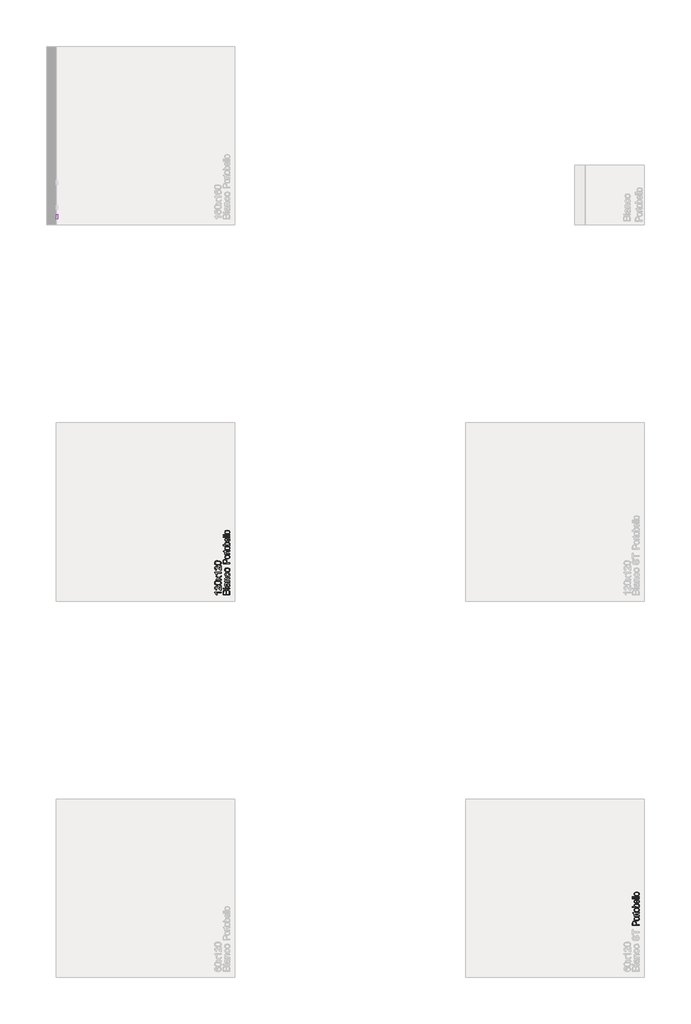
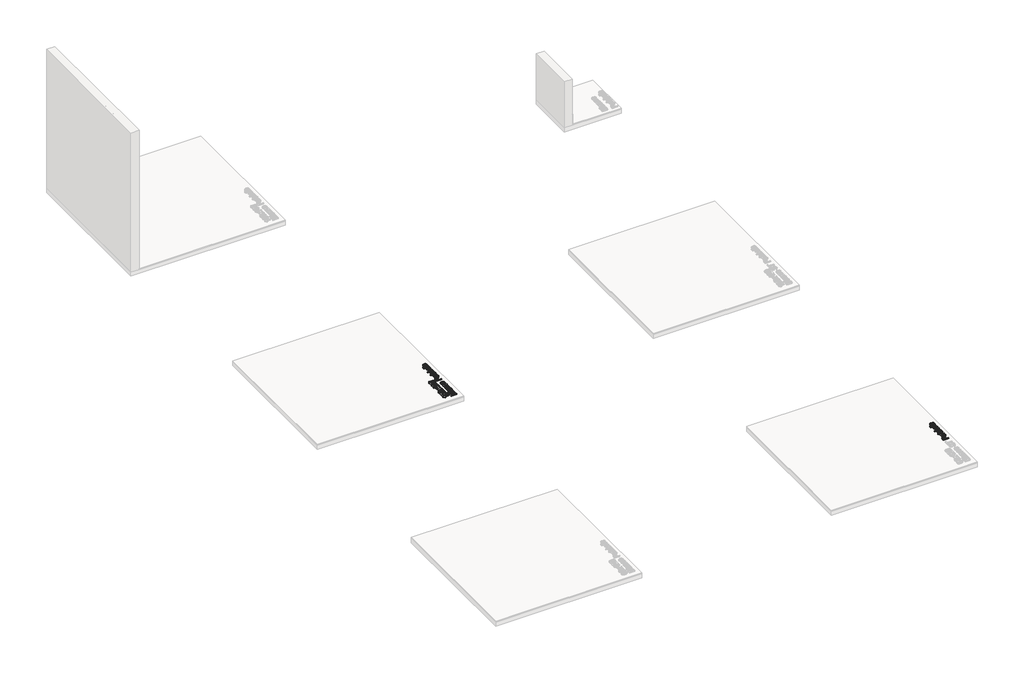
# One storey, part 10 of 14: 5 proxies.
"""IFC4 building model written with IfcOpenShell, lengths in millimetres."""

from ifc_helpers import new_model, si_unit, frame, origin, place, context, project, spatial, polyline, outline, extrude, element, save

model = new_model("IFC4")

# Units and contexts
model_context = context("Model", 3, world=origin())
ifc_project = project(units=[si_unit("LENGTHUNIT", "METRE", prefix="MILLI")], contexts=[model_context])

# Site, building, storey
site = spatial("IfcSite", under=ifc_project)
building = spatial("IfcBuilding", under=site)
storey = spatial("IfcBuildingStorey", under=building, Name="PORTOBELLO - SHOWROOM", Elevation=0.0)

# Proxies
placement = place(None, origin())
element("IfcBuildingElementProxy", 1, Name="10mm Arial", ObjectType="10mm Arial", at=placement, inside=storey, context=model_context, shape_type="SweptSolid", body=[
    extrude(outline(polyline([(-10552.2181326, 16929.8621307), (-10652.6744428, 16929.8621307), (-10652.6744428, 16968.1954346), (-10649.7191241, 16986.9696791), (-10640.6324388, 16998.0551899), (-10627.7810945, 17002.0651036), (-10616.0456588, 16998.692852), (-10607.1551773, 16988.5025207), (-10597.7864491, 17000.8756185), (-10582.1637271, 17005.2043633), (-10568.6624578, 17002.2490446), (-10559.048475, 16994.9281929), (-10553.947178, 16984.0020977), (-10552.2181326, 16967.901129), (-10552.2181326, 16929.8621307)]), holes=[polyline([(-10611.8640668, 16942.4191695), (-10611.8640668, 16965.3504805), (-10612.9431873, 16978.7413851), (-10617.5907632, 16986.7980008), (-10625.7700062, 16989.5080648), (-10633.961512, 16986.9819418), (-10638.8052916, 16979.7469292), (-10640.117404, 16963.6091724), (-10640.117404, 16942.4191695), (-10611.8640668, 16942.4191695)]), polyline([(-10564.7751714, 16942.4191695), (-10564.7751714, 16968.1709091), (-10565.2656807, 16977.4905863), (-10568.0002702, 16985.3755238), (-10573.5798138, 16990.5994481), (-10582.0410997, 16992.6473245), (-10591.8022353, 16990.2438288), (-10597.6270336, 16982.4569933), (-10599.307028, 16966.9446358), (-10599.307028, 16942.4191695), (-10564.7751714, 16942.4191695)])]), frame((0.0, 0.0, 17.0), z_axis=(0.0, 0.0, 1.0), x_axis=(1.0, 0.0, 0.0)), (0.0, 0.0, 1.0), 20.0),
    extrude(outline(polyline([(-10640.117404, 17020.9006618), (-10652.6744428, 17020.9006618), (-10652.6744428, 17033.4577005), (-10640.117404, 17033.4577005), (-10640.117404, 17020.9006618)])), frame((0.0, 0.0, 17.0), z_axis=(0.0, 0.0, 1.0), x_axis=(1.0, 0.0, 0.0)), (0.0, 0.0, 1.0), 20.0),
    extrude(outline(polyline([(-10552.2181326, 17020.9006618), (-10625.9907354, 17020.9006618), (-10625.9907354, 17033.4577005), (-10552.2181326, 17033.4577005), (-10552.2181326, 17020.9006618)])), frame((0.0, 0.0, 17.0), z_axis=(0.0, 0.0, 1.0), x_axis=(1.0, 0.0, 0.0)), (0.0, 0.0, 1.0), 20.0),
    extrude(outline(polyline([(-10561.6359117, 17099.3821541), (-10553.1255749, 17087.20526), (-10550.6485028, 17073.7530417), (-10552.1384249, 17063.2592078), (-10556.6081911, 17055.5183575), (-10563.3956139, 17050.7450886), (-10571.8385057, 17049.153999), (-10581.7713196, 17051.5574947), (-10588.9818067, 17057.8728023), (-10593.102085, 17066.665182), (-10594.990546, 17077.5299636), (-10599.307028, 17099.3085777), (-10602.1029312, 17099.3821541), (-10611.3735575, 17095.9240633), (-10615.0033265, 17082.0426494), (-10612.5875681, 17069.3384578), (-10604.0159176, 17063.2806676), (-10605.5855474, 17050.7236288), (-10617.8482806, 17056.1560196), (-10625.0342422, 17067.0943776), (-10627.5603653, 17083.6613301), (-10625.3285478, 17098.879382), (-10619.7244788, 17107.475558), (-10611.2018792, 17111.3260562), (-10600.2144703, 17111.9391928), (-10584.5917482, 17111.9391928), (-10562.7763459, 17112.576855), (-10552.2181326, 17115.0784525), (-10552.2181326, 17102.5214138), (-10561.6359117, 17099.3821541)]), holes=[polyline([(-10586.7499893, 17099.3821541), (-10582.899491, 17079.1241189), (-10580.8638773, 17068.3206509), (-10577.5529394, 17063.4278204), (-10572.7214225, 17061.7110378), (-10565.9278683, 17065.4511714), (-10563.2055416, 17076.4263176), (-10566.2099112, 17089.1305091), (-10573.481712, 17097.3220149), (-10583.1937966, 17099.3085777), (-10586.7499893, 17099.3821541)])]), frame((0.0, 0.0, 17.0), z_axis=(0.0, 0.0, 1.0), x_axis=(1.0, 0.0, 0.0)), (0.0, 0.0, 1.0), 20.0),
    extrude(outline(polyline([(-10552.2181326, 17129.2051211), (-10625.9907354, 17129.2051211), (-10625.9907354, 17141.7621599), (-10615.6900395, 17141.7621599), (-10624.5927838, 17151.36388), (-10627.5603653, 17164.4727418), (-10625.1691323, 17176.3308047), (-10618.8906129, 17184.4242086), (-10609.6567748, 17188.1888677), (-10597.516669, 17188.8510553), (-10552.2181326, 17188.8510553), (-10552.2181326, 17176.2940165), (-10595.8244118, 17176.2940165), (-10606.9344481, 17174.847014), (-10612.8082973, 17169.7334543), (-10615.0033265, 17161.1127529), (-10610.0737078, 17147.4888563), (-10602.9306657, 17143.193834), (-10591.3607769, 17141.7621599), (-10552.2181326, 17141.7621599), (-10552.2181326, 17129.2051211)])), frame((0.0, 0.0, 17.0), z_axis=(0.0, 0.0, 1.0), x_axis=(1.0, 0.0, 0.0)), (0.0, 0.0, 1.0), 20.0),
    extrude(outline(polyline([(-10578.90184, 17253.205879), (-10577.3322102, 17265.7629178), (-10566.1639259, 17262.2619074), (-10557.7240998, 17255.6829511), (-10552.4174021, 17246.6453167), (-10550.6485028, 17235.7682724), (-10553.1163779, 17222.4110903), (-10560.520003, 17211.9663073), (-10572.5344158, 17205.2248698), (-10588.8346539, 17202.9777239), (-10609.693563, 17206.8159594), (-10623.0967304, 17218.5146068), (-10627.5603653, 17235.5965942), (-10626.0275236, 17246.206924), (-10621.4289987, 17254.6896697), (-10614.0100451, 17260.775051), (-10604.0159176, 17264.1932879), (-10602.4462877, 17251.6362491), (-10611.8518041, 17245.8114509), (-10615.0033265, 17235.694696), (-10613.4520907, 17227.5798323), (-10608.7983835, 17221.1388317), (-10600.7908187, 17216.9357799), (-10589.1780104, 17215.5347627), (-10577.4088523, 17216.9051231), (-10569.3736964, 17221.0162044), (-10564.7475803, 17227.340709), (-10563.2055416, 17235.3513395), (-10567.0560398, 17247.184877), (-10578.90184, 17253.205879)])), frame((0.0, 0.0, 17.0), z_axis=(0.0, 0.0, 1.0), x_axis=(1.0, 0.0, 0.0)), (0.0, 0.0, 1.0), 20.0),
    extrude(outline(polyline([(-10589.104434, 17273.611067), (-10606.8915285, 17276.3272624), (-10619.393385, 17284.4758486), (-10625.5186202, 17294.5435525), (-10627.5603653, 17306.5978192), (-10625.0740961, 17319.7894544), (-10617.6152887, 17330.3262079), (-10605.7725541, 17337.2331924), (-10590.1345036, 17339.5355205), (-10567.7918038, 17335.4642931), (-10555.1489259, 17323.6062301), (-10550.6485028, 17306.5978192), (-10553.1255749, 17293.2467685), (-10560.5567912, 17282.7222777), (-10572.6478461, 17275.8888697), (-10589.104434, 17273.611067)]), holes=[polyline([(-10589.1289595, 17286.1681058), (-10577.7644715, 17287.6212396), (-10569.668002, 17291.9806413), (-10564.8211567, 17298.5412035), (-10563.2055416, 17306.5978192), (-10564.8303537, 17314.6176467), (-10569.7047902, 17321.1659462), (-10577.9085586, 17325.5253479), (-10589.521367, 17326.9784818), (-10600.5547611, 17325.5161508), (-10608.5408661, 17321.129158), (-10613.3877114, 17314.5716615), (-10615.0033265, 17306.5978192), (-10613.3938428, 17298.5412035), (-10608.5653916, 17291.9806413), (-10600.4873161, 17287.6212396), (-10589.1289595, 17286.1681058)])]), frame((0.0, 0.0, 17.0), z_axis=(0.0, 0.0, 1.0), x_axis=(1.0, 0.0, 0.0)), (0.0, 0.0, 1.0), 20.0),
])
element("IfcBuildingElementProxy", 2, Name="10mm Arial", ObjectType="10mm Arial", at=placement, inside=storey, context=model_context, shape_type="SweptSolid", body=[
    extrude(outline(polyline([(-10682.2181326, 16972.2421365), (-10682.2181326, 16959.6850978), (-10760.5034212, 16959.6850978), (-10752.0298726, 16947.7902466), (-10745.6900395, 16934.5710202), (-10757.5603653, 16934.5710202), (-10769.3080636, 16952.9773827), (-10782.6744428, 16964.1487326), (-10782.6744428, 16972.2421365), (-10682.2181326, 16972.2421365)])), frame((0.0, 0.0, 17.0), z_axis=(0.0, 0.0, 1.0), x_axis=(1.0, 0.0, 0.0)), (0.0, 0.0, 1.0), 20.0),
    extrude(outline(polyline([(-10694.7751714, 17066.4199273), (-10682.2181326, 17066.4199273), (-10682.2181326, 17000.4954738), (-10690.8756223, 17001.8443744), (-10704.2052132, 17009.4840572), (-10718.7610775, 17025.2171438), (-10739.6813003, 17046.8853934), (-10753.9060708, 17052.2932587), (-10765.4207772, 17047.179699), (-10770.117404, 17033.8255825), (-10765.5311418, 17019.9073804), (-10752.8514757, 17014.6221424), (-10754.4211056, 17002.0651036), (-10766.5673428, 17005.1093271), (-10775.4394302, 17011.6913492), (-10780.8656897, 17021.4678132), (-10782.6744428, 17034.0953627), (-10780.6633546, 17046.8148826), (-10774.6300898, 17056.5729526), (-10765.616981, 17062.7809612), (-10754.6663602, 17064.8502975), (-10742.7592463, 17062.61848), (-10730.4474622, 17055.1995265), (-10713.2428476, 17037.2100969), (-10701.1640554, 17022.7645972), (-10694.7751714, 17017.0992145), (-10694.7751714, 17066.4199273)])), frame((0.0, 0.0, 17.0), z_axis=(0.0, 0.0, 1.0), x_axis=(1.0, 0.0, 0.0)), (0.0, 0.0, 1.0), 20.0),
    extrude(outline(polyline([(-10731.6369473, 17078.9769661), (-10760.5402094, 17082.6680488), (-10777.2052638, 17093.6309322), (-10782.6744428, 17111.9391928), (-10779.4370812, 17126.6054217), (-10770.1051413, 17136.7344393), (-10755.2427087, 17142.6205512), (-10731.6369473, 17144.9014196), (-10702.8563126, 17141.2471251), (-10686.15447, 17130.3210299), (-10682.0249946, 17122.0896702), (-10680.6485028, 17111.9391928), (-10683.0397358, 17098.8916447), (-10690.2134347, 17088.9833563), (-10707.2034515, 17081.4785636), (-10731.6369473, 17078.9769661)]), holes=[polyline([(-10731.6614728, 17091.5340048), (-10711.9092753, 17093.0055328), (-10700.4773423, 17097.4201168), (-10695.0234918, 17103.9929417), (-10693.2055416, 17111.9391928), (-10695.0296231, 17119.8854439), (-10700.5018678, 17126.4582689), (-10711.9399322, 17130.8728529), (-10731.6614728, 17132.3443808), (-10750.9691462, 17130.9219038), (-10762.489984, 17126.6544726), (-10768.210549, 17120.0939104), (-10770.117404, 17111.79204), (-10768.4374096, 17103.9316281), (-10763.3974263, 17097.6163205), (-10751.1592185, 17093.0545838), (-10731.6614728, 17091.5340048)])]), frame((0.0, 0.0, 17.0), z_axis=(0.0, 0.0, 1.0), x_axis=(1.0, 0.0, 0.0)), (0.0, 0.0, 1.0), 20.0),
    extrude(outline(polyline([(-10682.2181326, 17151.179939), (-10719.3251632, 17178.0107992), (-10755.9907354, 17152.7495688), (-10755.9907354, 17167.8082052), (-10738.3078742, 17179.9973619), (-10729.9937411, 17185.7117956), (-10736.8118207, 17190.6659398), (-10755.9907354, 17204.5473538), (-10755.9907354, 17219.655041), (-10719.3006378, 17193.1184864), (-10682.2181326, 17218.6740224), (-10682.2181326, 17203.5908606), (-10704.536307, 17188.1888677), (-10708.6320599, 17185.3929645), (-10682.2181326, 17166.2876263), (-10682.2181326, 17151.179939)])), frame((0.0, 0.0, 17.0), z_axis=(0.0, 0.0, 1.0), x_axis=(1.0, 0.0, 0.0)), (0.0, 0.0, 1.0), 20.0),
    extrude(outline(polyline([(-10682.2181326, 17273.611067), (-10682.2181326, 17261.0540282), (-10760.5034212, 17261.0540282), (-10752.0298726, 17249.159177), (-10745.6900395, 17235.9399507), (-10757.5603653, 17235.9399507), (-10769.3080636, 17254.3463132), (-10782.6744428, 17265.5176631), (-10782.6744428, 17273.611067), (-10682.2181326, 17273.611067)])), frame((0.0, 0.0, 17.0), z_axis=(0.0, 0.0, 1.0), x_axis=(1.0, 0.0, 0.0)), (0.0, 0.0, 1.0), 20.0),
    extrude(outline(polyline([(-10694.7751714, 17367.7888578), (-10682.2181326, 17367.7888578), (-10682.2181326, 17301.8644042), (-10690.8756223, 17303.2133049), (-10704.2052132, 17310.8529876), (-10718.7610775, 17326.5860743), (-10739.6813003, 17348.2543238), (-10753.9060708, 17353.6621891), (-10765.4207772, 17348.5486294), (-10770.117404, 17335.194513), (-10765.5311418, 17321.2763108), (-10752.8514757, 17315.9910728), (-10754.4211056, 17303.4340341), (-10766.5673428, 17306.4782576), (-10775.4394302, 17313.0602796), (-10780.8656897, 17322.8367436), (-10782.6744428, 17335.4642931), (-10780.6633546, 17348.1838131), (-10774.6300898, 17357.941883), (-10765.616981, 17364.1498917), (-10754.6663602, 17366.2192279), (-10742.7592463, 17363.9874105), (-10730.4474622, 17356.5684569), (-10713.2428476, 17338.5790273), (-10701.1640554, 17324.1335277), (-10694.7751714, 17318.4681449), (-10694.7751714, 17367.7888578)])), frame((0.0, 0.0, 17.0), z_axis=(0.0, 0.0, 1.0), x_axis=(1.0, 0.0, 0.0)), (0.0, 0.0, 1.0), 20.0),
    extrude(outline(polyline([(-10731.6369473, 17380.3458965), (-10760.5402094, 17384.0369792), (-10777.2052638, 17394.9998627), (-10782.6744428, 17413.3081233), (-10779.4370812, 17427.9743522), (-10770.1051413, 17438.1033698), (-10755.2427087, 17443.9894817), (-10731.6369473, 17446.2703501), (-10702.8563126, 17442.6160556), (-10686.15447, 17431.6899603), (-10682.0249946, 17423.4586007), (-10680.6485028, 17413.3081233), (-10683.0397358, 17400.2605752), (-10690.2134347, 17390.3522868), (-10707.2034515, 17382.8474941), (-10731.6369473, 17380.3458965)]), holes=[polyline([(-10731.6614728, 17392.9029353), (-10711.9092753, 17394.3744633), (-10700.4773423, 17398.7890472), (-10695.0234918, 17405.3618722), (-10693.2055416, 17413.3081233), (-10695.0296231, 17421.2543744), (-10700.5018678, 17427.8271994), (-10711.9399322, 17432.2417833), (-10731.6614728, 17433.7133113), (-10750.9691462, 17432.2908342), (-10762.489984, 17428.0234031), (-10768.210549, 17421.4628408), (-10770.117404, 17413.1609705), (-10768.4374096, 17405.3005585), (-10763.3974263, 17398.9852509), (-10751.1592185, 17394.4235142), (-10731.6614728, 17392.9029353)])]), frame((0.0, 0.0, 17.0), z_axis=(0.0, 0.0, 1.0), x_axis=(1.0, 0.0, 0.0)), (0.0, 0.0, 1.0), 20.0),
])
element("IfcBuildingElementProxy", 3, Name="10mm Arial", ObjectType="10mm Arial", at=placement, inside=storey, context=model_context, shape_type="SweptSolid", body=[
    extrude(outline(polyline([(22620.5236639, 2516.1895903), (22620.5236639, 2616.6459005), (22657.7533218, 2616.6459005), (22672.7629072, 2615.6894073), (22684.9643267, 2610.9927805), (22692.8737896, 2601.2806958), (22695.8658965, 2587.5832229), (22693.8456112, 2575.743554), (22687.7847554, 2565.8781852), (22676.4509242, 2559.219521), (22658.6117131, 2556.9999663), (22633.0807027, 2556.9999663), (22633.0807027, 2516.1895903), (22620.5236639, 2516.1895903)]), holes=[polyline([(22633.0807027, 2569.5570051), (22659.3474771, 2569.5570051), (22677.8396788, 2574.1677928), (22681.941563, 2579.7166795), (22683.3088577, 2587.1417645), (22680.0837589, 2597.5405622), (22671.6102103, 2603.2304704), (22659.0531715, 2604.0888617), (22633.0807027, 2604.0888617), (22633.0807027, 2569.5570051)])]), frame((-13177.661959, 0.0, 0.0), z_axis=(1.0, 0.0, 0.0), x_axis=(0.0, 1.0, 0.0)), (0.0, 0.0, 1.0), 20.0),
    extrude(outline(polyline([(22711.562195, 2516.1895903), (22711.562195, 2589.9621931), (22722.5496039, 2589.9621931), (22722.5496039, 2579.0483606), (22730.3487022, 2589.1038018), (22738.1968514, 2591.531823), (22750.8029411, 2587.6567993), (22746.6090864, 2576.3996102), (22737.7799185, 2578.9747842), (22730.679796, 2576.4977121), (22726.1548475, 2569.6305815), (22724.1192337, 2554.9643526), (22724.1192337, 2516.1895903), (22711.562195, 2516.1895903)])), frame((-13177.661959, 0.0, 0.0), z_axis=(1.0, 0.0, 0.0), x_axis=(0.0, 1.0, 0.0)), (0.0, 0.0, 1.0), 20.0),
    extrude(outline(polyline([(22755.5118307, 2553.0758917), (22758.2280261, 2570.8629862), (22766.3766123, 2583.3648427), (22776.4443162, 2589.4900779), (22788.4985829, 2591.531823), (22801.6902181, 2589.0455538), (22812.2269716, 2581.5867464), (22819.1339561, 2569.7440118), (22821.4362842, 2554.1059613), (22817.3650568, 2531.7632615), (22805.5069938, 2519.1203836), (22788.4985829, 2514.6199605), (22775.1475322, 2517.0970326), (22764.6230414, 2524.5282489), (22757.7896334, 2536.6193038), (22755.5118307, 2553.0758917)]), holes=[polyline([(22768.0688694, 2553.1004172), (22769.5220033, 2541.7359292), (22773.881405, 2533.6394596), (22780.4419672, 2528.7926144), (22788.4985829, 2527.1769993), (22796.5184104, 2528.8018114), (22803.0667099, 2533.6762478), (22807.4261116, 2541.8800163), (22808.8792454, 2553.4928247), (22807.4169145, 2564.5262188), (22803.0299217, 2572.5123238), (22796.4724251, 2577.3591691), (22788.4985829, 2578.9747842), (22780.4419672, 2577.3653005), (22773.881405, 2572.5368493), (22769.5220033, 2564.4587738), (22768.0688694, 2553.1004172)])]), frame((-13177.661959, 0.0, 0.0), z_axis=(1.0, 0.0, 0.0), x_axis=(0.0, 1.0, 0.0)), (0.0, 0.0, 1.0), 20.0),
    extrude(outline(polyline([(22881.0822184, 2516.1895903), (22881.0822184, 2528.0353906), (22872.7742166, 2517.973818), (22861.290167, 2514.6199605), (22845.7410214, 2519.4760028), (22834.7536124, 2533.026323), (22830.8540633, 2553.0023153), (22834.4470441, 2572.9905704), (22845.2137238, 2586.749357), (22861.2411161, 2591.531823), (22872.8171362, 2588.1105204), (22881.0822184, 2579.2200388), (22881.0822184, 2616.6459005), (22893.6392571, 2616.6459005), (22893.6392571, 2516.1895903), (22881.0822184, 2516.1895903)]), holes=[polyline([(22843.4111021, 2553.0513663), (22844.8274477, 2541.6930097), (22849.0764848, 2533.6149342), (22855.2507709, 2528.786483), (22862.4428639, 2527.1769993), (22869.6318913, 2528.7129066), (22875.6498276, 2533.3206286), (22879.7241207, 2541.0860044), (22881.0822184, 2552.0948731), (22879.6995952, 2564.1307457), (22875.5517257, 2572.4755356), (22869.3805052, 2577.349972), (22861.9278291, 2578.9747842), (22854.6621597, 2577.4143514), (22848.7086028, 2572.733053), (22844.7354772, 2564.6917657), (22843.4111021, 2553.0513663)])]), frame((-13177.661959, 0.0, 0.0), z_axis=(1.0, 0.0, 0.0), x_axis=(0.0, 1.0, 0.0)), (0.0, 0.0, 1.0), 20.0),
    extrude(outline(polyline([(22959.5637107, 2516.1895903), (22959.5637107, 2528.8692564), (22949.7289987, 2518.1822845), (22936.9021798, 2514.6199605), (22925.0931677, 2517.1215581), (22916.9507129, 2523.4000774), (22913.2105793, 2532.6461783), (22912.4748153, 2544.3203002), (22912.4748153, 2589.9621931), (22925.031854, 2589.9621931), (22925.031854, 2550.2309376), (22925.7921435, 2537.4286442), (22930.7585504, 2529.9115888), (22940.1150158, 2527.1769993), (22950.5996527, 2529.9729024), (22957.528097, 2537.5880597), (22959.5637107, 2551.5798383), (22959.5637107, 2589.9621931), (22972.1207494, 2589.9621931), (22972.1207494, 2516.1895903), (22959.5637107, 2516.1895903)])), frame((-13177.661959, 0.0, 0.0), z_axis=(1.0, 0.0, 0.0), x_axis=(0.0, 1.0, 0.0)), (0.0, 0.0, 1.0), 20.0),
    extrude(outline(polyline([(23016.0703851, 2526.6619645), (23017.640015, 2515.8217083), (23008.2467614, 2514.6199605), (22997.7253363, 2516.7046251), (22992.4768865, 2522.1738041), (22990.9563076, 2536.4231001), (22990.9563076, 2577.4051543), (22981.5385285, 2577.4051543), (22981.5385285, 2589.9621931), (22990.9563076, 2589.9621931), (22990.9563076, 2607.890309), (23003.5133464, 2615.2724744), (23003.5133464, 2589.9621931), (23016.0703851, 2589.9621931), (23016.0703851, 2577.4051543), (23003.5133464, 2577.4051543), (23003.5133464, 2536.7909821), (23004.1755339, 2530.316259), (23006.3215122, 2528.0231279), (23010.6012061, 2527.1769993), (23016.0703851, 2526.6619645)])), frame((-13177.661959, 0.0, 0.0), z_axis=(1.0, 0.0, 0.0), x_axis=(0.0, 1.0, 0.0)), (0.0, 0.0, 1.0), 20.0),
    extrude(outline(polyline([(23025.4881642, 2553.0758917), (23028.2043596, 2570.8629862), (23036.3529458, 2583.3648427), (23046.4206497, 2589.4900779), (23058.4749164, 2591.531823), (23071.6665516, 2589.0455538), (23082.2033051, 2581.5867464), (23089.1102896, 2569.7440118), (23091.4126177, 2554.1059613), (23087.3413903, 2531.7632615), (23075.4833273, 2519.1203836), (23058.4749164, 2514.6199605), (23045.1238657, 2517.0970326), (23034.5993749, 2524.5282489), (23027.7659669, 2536.6193038), (23025.4881642, 2553.0758917)]), holes=[polyline([(23038.045203, 2553.1004172), (23039.4983368, 2541.7359292), (23043.8577385, 2533.6394596), (23050.4183007, 2528.7926144), (23058.4749164, 2527.1769993), (23066.4947439, 2528.8018114), (23073.0430434, 2533.6762478), (23077.4024451, 2541.8800163), (23078.855579, 2553.4928247), (23077.393248, 2564.5262188), (23073.0062552, 2572.5123238), (23066.4487587, 2577.3591691), (23058.4749164, 2578.9747842), (23050.4183007, 2577.3653005), (23043.8577385, 2572.5368493), (23039.4983368, 2564.4587738), (23038.045203, 2553.1004172)])]), frame((-13177.661959, 0.0, 0.0), z_axis=(1.0, 0.0, 0.0), x_axis=(0.0, 1.0, 0.0)), (0.0, 0.0, 1.0), 20.0),
])
element("IfcBuildingElementProxy", 4, Name="10mm Arial Narrow", ObjectType="10mm Arial Narrow", at=placement, inside=storey, context=model_context, shape_type="SweptSolid", body=[
    extrude(outline(polyline([(-4352.1931166, 11924.5809264), (-4452.9117203, 11924.5809264), (-4452.9117203, 11955.8778111), (-4451.0333996, 11972.1735126), (-4441.5529564, 11983.6464987), (-4424.5338476, 11987.9361772), (-4412.4580221, 11986.1498688), (-4402.8316283, 11980.7909436), (-4396.5303699, 11971.0471547), (-4394.4299504, 11956.1062555), (-4394.4299504, 11934.3278881), (-4352.1931166, 11934.3278881), (-4352.1931166, 11924.5809264)]), holes=[polyline([(-4405.8014057, 11934.3278881), (-4405.8014057, 11957.299243), (-4410.3322199, 11973.1634384), (-4424.0008106, 11978.1892155), (-4434.166587, 11975.714401), (-4439.9665369, 11969.7367722), (-4441.5402651, 11957.0707986), (-4441.5402651, 11934.3278881), (-4405.8014057, 11934.3278881)])]), frame((0.0, 0.0, 19.0), z_axis=(0.0, 0.0, 1.0), x_axis=(1.0, 0.0, 0.0)), (0.0, 0.0, 1.0), 20.0),
    extrude(outline(polyline([(-4388.7442228, 11996.0586452), (-4405.3349983, 11998.0131141), (-4417.2870831, 12003.8765207), (-4424.5116377, 12012.7350874), (-4426.9198226, 12023.6750366), (-4424.5116377, 12034.4880721), (-4417.2870831, 12043.3720216), (-4405.5253687, 12049.3115763), (-4389.5057041, 12051.2914279), (-4372.3438176, 12049.3464776), (-4360.2013624, 12043.5116265), (-4352.9768078, 12034.6625783), (-4350.568623, 12023.6750366), (-4352.9831535, 12012.8144084), (-4360.2267451, 12003.9399775), (-4372.1851756, 11998.0289783), (-4388.7442228, 11996.0586452)]), holes=[polyline([(-4388.7696055, 12005.8056069), (-4376.2178541, 12007.1096437), (-4367.346596, 12011.0217543), (-4362.0733375, 12016.8629511), (-4360.3155846, 12023.9542464), (-4362.0892017, 12030.6743196), (-4367.4100528, 12036.3663929), (-4376.2971751, 12040.2499479), (-4388.7696055, 12041.5444663), (-4401.2832828, 12040.2404294), (-4410.1418495, 12036.3283188), (-4415.4151081, 12030.4871221), (-4417.1728609, 12023.3958267), (-4415.4055896, 12016.628161), (-4410.1037755, 12010.9456062), (-4401.2356902, 12007.0906067), (-4388.7696055, 12005.8056069)])]), frame((0.0, 0.0, 19.0), z_axis=(0.0, 0.0, 1.0), x_axis=(1.0, 0.0, 0.0)), (0.0, 0.0, 1.0), 20.0),
    extrude(outline(polyline([(-4360.3155846, 12122.7691467), (-4350.568623, 12124.3936403), (-4350.568623, 12117.0326537), (-4352.6880795, 12108.7578893), (-4358.4880293, 12104.4428282), (-4373.1338545, 12103.2752234), (-4415.5483673, 12103.2752234), (-4415.5483673, 12095.1527554), (-4418.7973545, 12095.1527554), (-4413.9238737, 12093.5282617), (-4415.5483673, 12085.9642134), (-4413.2258491, 12079.8850537), (-4406.740566, 12076.01419), (-4391.3332595, 12074.0343384), (-4352.1931166, 12074.0343384), (-4352.1931166, 12064.2873768), (-4425.295329, 12064.2873768), (-4425.295329, 12074.0343384), (-4415.5991327, 12074.0343384), (-4424.6861439, 12080.2784858), (-4426.9198226, 12086.6749293), (-4425.295329, 12095.1527554), (-4425.295329, 12103.2752234), (-4441.5402651, 12103.2752234), (-4449.6627331, 12113.0221851), (-4425.295329, 12113.0221851), (-4425.295329, 12122.7691467), (-4415.5483673, 12122.7691467), (-4415.5483673, 12113.0221851), (-4370.9001758, 12113.0221851), (-4362.9046213, 12113.8851973), (-4360.3155846, 12118.504851), (-4360.3155846, 12122.7691467)])), frame((0.0, 0.0, 19.0), z_axis=(0.0, 0.0, 1.0), x_axis=(1.0, 0.0, 0.0)), (0.0, 0.0, 1.0), 20.0),
    extrude(outline(polyline([(-4388.7442228, 12129.2671211), (-4405.3349983, 12131.22159), (-4417.2870831, 12137.0849966), (-4424.5116377, 12145.9435633), (-4426.9198226, 12156.8835125), (-4424.5116377, 12167.6965481), (-4417.2870831, 12176.5804975), (-4405.5253687, 12182.5200523), (-4389.5057041, 12184.4999038), (-4372.3438176, 12182.5549535), (-4360.2013624, 12176.7201024), (-4352.9768078, 12167.8710542), (-4350.568623, 12156.8835125), (-4352.9831535, 12146.0228843), (-4360.2267451, 12137.1484534), (-4372.1851756, 12131.2374542), (-4388.7442228, 12129.2671211)]), holes=[polyline([(-4388.7696055, 12139.0140828), (-4376.2178541, 12140.3181197), (-4367.346596, 12144.2302302), (-4362.0733375, 12150.071427), (-4360.3155846, 12157.1627223), (-4362.0892017, 12163.8827955), (-4367.4100528, 12169.5748688), (-4376.2971751, 12173.4584238), (-4388.7696055, 12174.7529422), (-4401.2832828, 12173.4489053), (-4410.1418495, 12169.5367947), (-4415.4151081, 12163.695598), (-4417.1728609, 12156.6043027), (-4415.4055896, 12149.8366369), (-4410.1037755, 12144.1540821), (-4401.2356902, 12140.2990826), (-4388.7696055, 12139.0140828)])]), frame((0.0, 0.0, 19.0), z_axis=(0.0, 0.0, 1.0), x_axis=(1.0, 0.0, 0.0)), (0.0, 0.0, 1.0), 20.0),
    extrude(outline(polyline([(-4352.1931166, 12207.2428144), (-4352.1931166, 12197.4958527), (-4452.9117203, 12197.4958527), (-4452.9117203, 12207.2428144), (-4417.5028362, 12207.2428144), (-4424.584613, 12214.6418751), (-4426.9198226, 12223.8431084), (-4422.7189836, 12236.7248351), (-4409.9895532, 12246.0022166), (-4389.3026424, 12249.4796482), (-4372.848299, 12247.5473892), (-4360.6455599, 12241.7506122), (-4353.0878572, 12233.3774899), (-4350.568623, 12223.7161949), (-4353.1830424, 12214.3753566), (-4360.9501524, 12207.2428144), (-4352.1931166, 12207.2428144)]), holes=[polyline([(-4389.3026424, 12207.2428144), (-4372.0550892, 12209.3241968), (-4363.3234361, 12215.2129861), (-4360.3155846, 12223.6654295), (-4362.1050659, 12229.608157), (-4367.4735096, 12234.8465144), (-4388.896519, 12239.7326866), (-4410.3322199, 12235.0241934), (-4415.4627007, 12229.7794904), (-4417.1728609, 12223.4623677), (-4415.3833797, 12217.4847389), (-4410.014936, 12212.1924433), (-4389.3026424, 12207.2428144)])]), frame((0.0, 0.0, 19.0), z_axis=(0.0, 0.0, 1.0), x_axis=(1.0, 0.0, 0.0)), (0.0, 0.0, 1.0), 20.0),
    extrude(outline(polyline([(-4374.9360271, 12301.4634437), (-4373.3115335, 12311.2104053), (-4363.4249669, 12307.510875), (-4356.305116, 12301.6918881), (-4352.0027462, 12293.9882348), (-4350.568623, 12284.6347052), (-4352.9831535, 12273.0411512), (-4360.2267451, 12263.897029), (-4372.0328793, 12257.9574742), (-4388.1350377, 12255.9776226), (-4404.8019614, 12257.9669927), (-4416.9824906, 12263.9351031), (-4424.4354896, 12272.9491389), (-4426.9198226, 12284.0762855), (-4424.5211562, 12294.7592347), (-4417.3251572, 12303.5067521), (-4405.5856526, 12309.3416031), (-4389.5564696, 12311.2865535), (-4386.3074824, 12311.2104053), (-4386.3074824, 12265.7245843), (-4366.8643245, 12271.7275958), (-4361.9527696, 12277.6576321), (-4360.3155846, 12284.7616188), (-4363.9706952, 12294.9400865), (-4374.9360271, 12301.4634437)]), holes=[polyline([(-4396.054444, 12266.3845348), (-4396.054444, 12301.4634437), (-4410.3195285, 12297.199148), (-4415.4595278, 12291.3738154), (-4417.1728609, 12284.1524337), (-4411.4617506, 12271.9433489), (-4396.054444, 12266.3845348)])]), frame((0.0, 0.0, 19.0), z_axis=(0.0, 0.0, 1.0), x_axis=(1.0, 0.0, 0.0)), (0.0, 0.0, 1.0), 20.0),
    extrude(outline(polyline([(-4352.1931166, 12324.2063542), (-4452.9117203, 12324.2063542), (-4452.9117203, 12333.9533159), (-4352.1931166, 12333.9533159), (-4352.1931166, 12324.2063542)])), frame((0.0, 0.0, 19.0), z_axis=(0.0, 0.0, 1.0), x_axis=(1.0, 0.0, 0.0)), (0.0, 0.0, 1.0), 20.0),
    extrude(outline(polyline([(-4352.1931166, 12350.198252), (-4452.9117203, 12350.198252), (-4452.9117203, 12359.9452136), (-4352.1931166, 12359.9452136), (-4352.1931166, 12350.198252)])), frame((0.0, 0.0, 19.0), z_axis=(0.0, 0.0, 1.0), x_axis=(1.0, 0.0, 0.0)), (0.0, 0.0, 1.0), 20.0),
    extrude(outline(polyline([(-4388.7442228, 12371.3166689), (-4405.3349983, 12373.2711377), (-4417.2870831, 12379.1345444), (-4424.5116377, 12387.9931111), (-4426.9198226, 12398.9330602), (-4424.5116377, 12409.7460958), (-4417.2870831, 12418.6300452), (-4405.5253687, 12424.5696), (-4389.5057041, 12426.5494516), (-4372.3438176, 12424.6045012), (-4360.2013624, 12418.7696502), (-4352.9768078, 12409.920602), (-4350.568623, 12398.9330602), (-4352.9831535, 12388.0724321), (-4360.2267451, 12379.1980011), (-4372.1851756, 12373.2870019), (-4388.7442228, 12371.3166689)]), holes=[polyline([(-4388.7696055, 12381.0636305), (-4376.2178541, 12382.3676674), (-4367.346596, 12386.279778), (-4362.0733375, 12392.1209747), (-4360.3155846, 12399.2122701), (-4362.0892017, 12405.9323432), (-4367.4100528, 12411.6244165), (-4376.2971751, 12415.5079716), (-4388.7696055, 12416.8024899), (-4401.2832828, 12415.4984531), (-4410.1418495, 12411.5863425), (-4415.4151081, 12405.7451457), (-4417.1728609, 12398.6538504), (-4415.4055896, 12391.8861846), (-4410.1037755, 12386.2036298), (-4401.2356902, 12382.3486304), (-4388.7696055, 12381.0636305)])]), frame((0.0, 0.0, 19.0), z_axis=(0.0, 0.0, 1.0), x_axis=(1.0, 0.0, 0.0)), (0.0, 0.0, 1.0), 20.0),
])
element("IfcBuildingElementProxy", 5, Name="10mm Arial Narrow", ObjectType="10mm Arial Narrow", at=placement, inside=storey, context=model_context, shape_type="SweptSolid", body=[
    extrude(outline(polyline([(-10552.2181326, 17404.5809264), (-10652.9367364, 17404.5809264), (-10652.9367364, 17435.8778111), (-10651.0584157, 17452.1735126), (-10641.5779725, 17463.6464987), (-10624.5588637, 17467.9361772), (-10612.4830381, 17466.1498688), (-10602.8566444, 17460.7909436), (-10596.555386, 17451.0471547), (-10594.4549665, 17436.1062555), (-10594.4549665, 17414.3278881), (-10552.2181326, 17414.3278881), (-10552.2181326, 17404.5809264)]), holes=[polyline([(-10605.8264217, 17414.3278881), (-10605.8264217, 17437.299243), (-10610.3572359, 17453.1634384), (-10624.0258267, 17458.1892155), (-10634.1916031, 17455.714401), (-10639.991553, 17449.7367722), (-10641.5652811, 17437.0707986), (-10641.5652811, 17414.3278881), (-10605.8264217, 17414.3278881)])]), frame((0.0, 0.0, 17.0), z_axis=(0.0, 0.0, 1.0), x_axis=(1.0, 0.0, 0.0)), (0.0, 0.0, 1.0), 20.0),
    extrude(outline(polyline([(-10588.7692388, 17476.0586452), (-10605.3600144, 17478.0131141), (-10617.3120992, 17483.8765207), (-10624.5366538, 17492.7350874), (-10626.9448387, 17503.6750366), (-10624.5366538, 17514.4880721), (-10617.3120992, 17523.3720216), (-10605.5503847, 17529.3115763), (-10589.5307202, 17531.2914279), (-10572.3688336, 17529.3464776), (-10560.2263785, 17523.5116265), (-10553.0018239, 17514.6625783), (-10550.593639, 17503.6750366), (-10553.0081696, 17492.8144084), (-10560.2517612, 17483.9399775), (-10572.2101917, 17478.0289783), (-10588.7692388, 17476.0586452)]), holes=[polyline([(-10588.7946216, 17485.8056069), (-10576.2428702, 17487.1096437), (-10567.3716121, 17491.0217543), (-10562.0983535, 17496.8629511), (-10560.3406007, 17503.9542464), (-10562.1142177, 17510.6743196), (-10567.4350689, 17516.3663929), (-10576.3221911, 17520.2499479), (-10588.7946216, 17521.5444663), (-10601.3082989, 17520.2404294), (-10610.1668656, 17516.3283188), (-10615.4401242, 17510.4871221), (-10617.197877, 17503.3958267), (-10615.4306056, 17496.628161), (-10610.1287915, 17490.9456062), (-10601.2607063, 17487.0906067), (-10588.7946216, 17485.8056069)])]), frame((0.0, 0.0, 17.0), z_axis=(0.0, 0.0, 1.0), x_axis=(1.0, 0.0, 0.0)), (0.0, 0.0, 1.0), 20.0),
    extrude(outline(polyline([(-10560.3406007, 17602.7691467), (-10550.593639, 17604.3936403), (-10550.593639, 17597.0326537), (-10552.7130955, 17588.7578893), (-10558.5130454, 17584.4428282), (-10573.1588706, 17583.2752234), (-10615.5733834, 17583.2752234), (-10615.5733834, 17575.1527554), (-10618.8223706, 17575.1527554), (-10613.9488898, 17573.5282617), (-10615.5733834, 17565.9642134), (-10613.2508652, 17559.8850537), (-10606.7655821, 17556.01419), (-10591.3582755, 17554.0343384), (-10552.2181326, 17554.0343384), (-10552.2181326, 17544.2873768), (-10625.320345, 17544.2873768), (-10625.320345, 17554.0343384), (-10615.6241488, 17554.0343384), (-10624.7111599, 17560.2784858), (-10626.9448387, 17566.6749293), (-10625.320345, 17575.1527554), (-10625.320345, 17583.2752234), (-10641.5652811, 17583.2752234), (-10649.6877492, 17593.0221851), (-10625.320345, 17593.0221851), (-10625.320345, 17602.7691467), (-10615.5733834, 17602.7691467), (-10615.5733834, 17593.0221851), (-10570.9251919, 17593.0221851), (-10562.9296374, 17593.8851973), (-10560.3406007, 17598.504851), (-10560.3406007, 17602.7691467)])), frame((0.0, 0.0, 17.0), z_axis=(0.0, 0.0, 1.0), x_axis=(1.0, 0.0, 0.0)), (0.0, 0.0, 1.0), 20.0),
    extrude(outline(polyline([(-10588.7692388, 17609.2671211), (-10605.3600144, 17611.22159), (-10617.3120992, 17617.0849966), (-10624.5366538, 17625.9435633), (-10626.9448387, 17636.8835125), (-10624.5366538, 17647.6965481), (-10617.3120992, 17656.5804975), (-10605.5503847, 17662.5200523), (-10589.5307202, 17664.4999038), (-10572.3688336, 17662.5549535), (-10560.2263785, 17656.7201024), (-10553.0018239, 17647.8710542), (-10550.593639, 17636.8835125), (-10553.0081696, 17626.0228843), (-10560.2517612, 17617.1484534), (-10572.2101917, 17611.2374542), (-10588.7692388, 17609.2671211)]), holes=[polyline([(-10588.7946216, 17619.0140828), (-10576.2428702, 17620.3181197), (-10567.3716121, 17624.2302302), (-10562.0983535, 17630.071427), (-10560.3406007, 17637.1627223), (-10562.1142177, 17643.8827955), (-10567.4350689, 17649.5748688), (-10576.3221911, 17653.4584238), (-10588.7946216, 17654.7529422), (-10601.3082989, 17653.4489053), (-10610.1668656, 17649.5367947), (-10615.4401242, 17643.695598), (-10617.197877, 17636.6043027), (-10615.4306056, 17629.8366369), (-10610.1287915, 17624.1540821), (-10601.2607063, 17620.2990826), (-10588.7946216, 17619.0140828)])]), frame((0.0, 0.0, 17.0), z_axis=(0.0, 0.0, 1.0), x_axis=(1.0, 0.0, 0.0)), (0.0, 0.0, 1.0), 20.0),
    extrude(outline(polyline([(-10552.2181326, 17687.2428144), (-10552.2181326, 17677.4958527), (-10652.9367364, 17677.4958527), (-10652.9367364, 17687.2428144), (-10617.5278523, 17687.2428144), (-10624.6096291, 17694.6418751), (-10626.9448387, 17703.8431084), (-10622.7439997, 17716.7248351), (-10610.0145693, 17726.0022166), (-10589.3276585, 17729.4796482), (-10572.8733151, 17727.5473892), (-10560.670576, 17721.7506122), (-10553.1128733, 17713.3774899), (-10550.593639, 17703.7161949), (-10553.2080584, 17694.3753566), (-10560.9751685, 17687.2428144), (-10552.2181326, 17687.2428144)]), holes=[polyline([(-10589.3276585, 17687.2428144), (-10572.0801053, 17689.3241968), (-10563.3484521, 17695.2129861), (-10560.3406007, 17703.6654295), (-10562.1300819, 17709.608157), (-10567.4985257, 17714.8465144), (-10588.9215351, 17719.7326866), (-10610.3572359, 17715.0241934), (-10615.4877167, 17709.7794904), (-10617.197877, 17703.4623677), (-10615.4083958, 17697.4847389), (-10610.039952, 17692.1924433), (-10589.3276585, 17687.2428144)])]), frame((0.0, 0.0, 17.0), z_axis=(0.0, 0.0, 1.0), x_axis=(1.0, 0.0, 0.0)), (0.0, 0.0, 1.0), 20.0),
    extrude(outline(polyline([(-10574.9610432, 17781.4634437), (-10573.3365496, 17791.2104053), (-10563.449983, 17787.510875), (-10556.3301321, 17781.6918881), (-10552.0277623, 17773.9882348), (-10550.593639, 17764.6347052), (-10553.0081696, 17753.0411512), (-10560.2517612, 17743.897029), (-10572.0578954, 17737.9574742), (-10588.1600537, 17735.9776226), (-10604.8269774, 17737.9669927), (-10617.0075067, 17743.9351031), (-10624.4605057, 17752.9491389), (-10626.9448387, 17764.0762855), (-10624.5461723, 17774.7592347), (-10617.3501733, 17783.5067521), (-10605.6106687, 17789.3416031), (-10589.5814857, 17791.2865535), (-10586.3324984, 17791.2104053), (-10586.3324984, 17745.7245843), (-10566.8893406, 17751.7275958), (-10561.9777857, 17757.6576321), (-10560.3406007, 17764.7616188), (-10563.9957113, 17774.9400865), (-10574.9610432, 17781.4634437)]), holes=[polyline([(-10596.0794601, 17746.3845348), (-10596.0794601, 17781.4634437), (-10610.3445446, 17777.199148), (-10615.4845439, 17771.3738154), (-10617.197877, 17764.1524337), (-10611.4867667, 17751.9433489), (-10596.0794601, 17746.3845348)])]), frame((0.0, 0.0, 17.0), z_axis=(0.0, 0.0, 1.0), x_axis=(1.0, 0.0, 0.0)), (0.0, 0.0, 1.0), 20.0),
    extrude(outline(polyline([(-10552.2181326, 17804.2063542), (-10652.9367364, 17804.2063542), (-10652.9367364, 17813.9533159), (-10552.2181326, 17813.9533159), (-10552.2181326, 17804.2063542)])), frame((0.0, 0.0, 17.0), z_axis=(0.0, 0.0, 1.0), x_axis=(1.0, 0.0, 0.0)), (0.0, 0.0, 1.0), 20.0),
    extrude(outline(polyline([(-10552.2181326, 17830.198252), (-10652.9367364, 17830.198252), (-10652.9367364, 17839.9452136), (-10552.2181326, 17839.9452136), (-10552.2181326, 17830.198252)])), frame((0.0, 0.0, 17.0), z_axis=(0.0, 0.0, 1.0), x_axis=(1.0, 0.0, 0.0)), (0.0, 0.0, 1.0), 20.0),
    extrude(outline(polyline([(-10588.7692388, 17851.3166689), (-10605.3600144, 17853.2711377), (-10617.3120992, 17859.1345444), (-10624.5366538, 17867.9931111), (-10626.9448387, 17878.9330602), (-10624.5366538, 17889.7460958), (-10617.3120992, 17898.6300452), (-10605.5503847, 17904.5696), (-10589.5307202, 17906.5494516), (-10572.3688336, 17904.6045012), (-10560.2263785, 17898.7696502), (-10553.0018239, 17889.920602), (-10550.593639, 17878.9330602), (-10553.0081696, 17868.0724321), (-10560.2517612, 17859.1980011), (-10572.2101917, 17853.2870019), (-10588.7692388, 17851.3166689)]), holes=[polyline([(-10588.7946216, 17861.0636305), (-10576.2428702, 17862.3676674), (-10567.3716121, 17866.279778), (-10562.0983535, 17872.1209747), (-10560.3406007, 17879.2122701), (-10562.1142177, 17885.9323432), (-10567.4350689, 17891.6244165), (-10576.3221911, 17895.5079716), (-10588.7946216, 17896.8024899), (-10601.3082989, 17895.4984531), (-10610.1668656, 17891.5863425), (-10615.4401242, 17885.7451457), (-10617.197877, 17878.6538504), (-10615.4306056, 17871.8861846), (-10610.1287915, 17866.2036298), (-10601.2607063, 17862.3486304), (-10588.7946216, 17861.0636305)])]), frame((0.0, 0.0, 17.0), z_axis=(0.0, 0.0, 1.0), x_axis=(1.0, 0.0, 0.0)), (0.0, 0.0, 1.0), 20.0),
])

save(model, "model.ifc")
